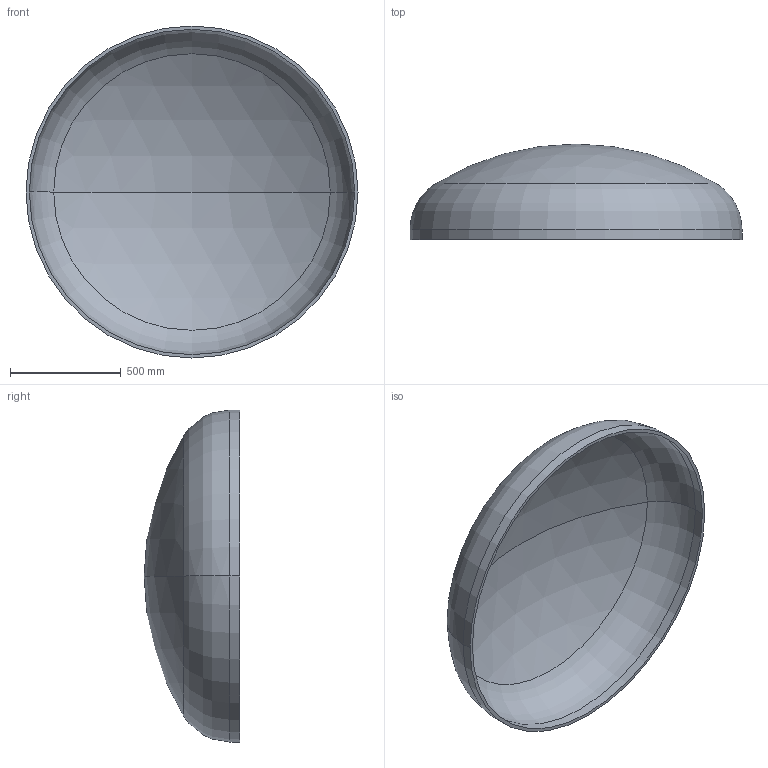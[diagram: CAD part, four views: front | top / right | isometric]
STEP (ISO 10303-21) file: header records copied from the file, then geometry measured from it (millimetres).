
FILE_DESCRIPTION (( 'STEP AP203' ), '1' );
FILE_NAME ('DIN 28013 Korbbogenform_-_Boden DIN 28013 - 1500 x 45 - I - s=15.step', '2016-07-01T10:36:58', ( '' ), ( '' ), 'SwSTEP 2.0', 'SolidWorks 2013', '' );
FILE_SCHEMA (( 'CONFIG_CONTROL_DESIGN' ));
Length unit declared in the file: millimetre
Products named in the file (1): DIN 28013 Korbbogenform_-_Boden DIN 28013 - 1500 x 45 - I - s=15
Bounding box: 1500 x 431.82 x 1500 mm (x, y, z)
Volume: 39348068.9 mm3; surface area: 5316857.5 mm2
Topology: 1 solids, 1 shells, 13 faces, 24 edges, 14 vertices
Faces by surface type: torus 4, cylinder 4, sphere 4, plane 1
Entity records: 407 total; most frequent: DIRECTION 72, CARTESIAN_POINT 52, ORIENTED_EDGE 48, AXIS2_PLACEMENT_3D 34, EDGE_CURVE 24, CIRCLE 20, EDGE_LOOP 14, VERTEX_POINT 14
